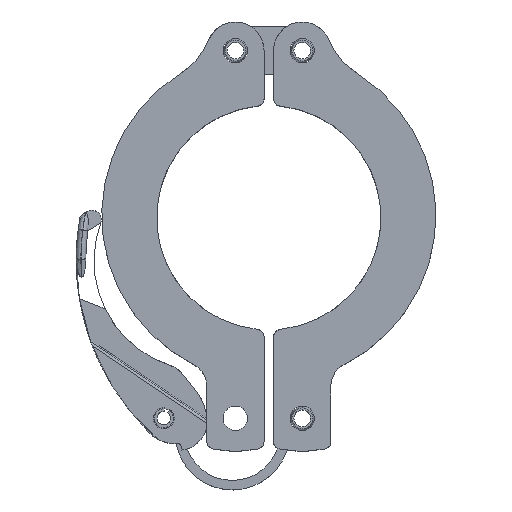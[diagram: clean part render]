
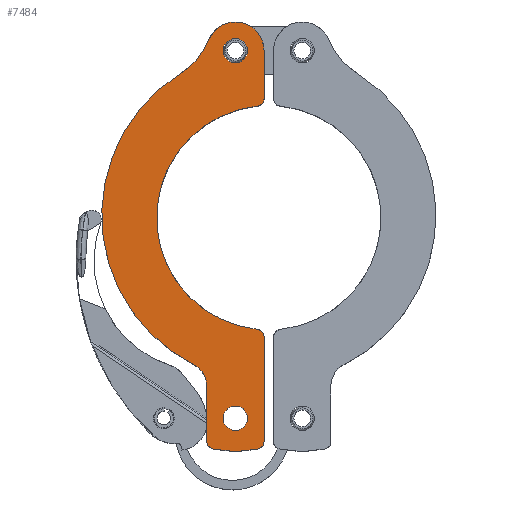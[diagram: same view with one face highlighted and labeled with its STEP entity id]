
A CAD part, top view. The second image highlights one B-rep face of the part: STEP entity #7484.
In plain terms, the highlighted planar face has unit normal (0, 0, 1).
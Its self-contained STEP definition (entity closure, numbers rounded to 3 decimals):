
#696=CARTESIAN_POINT('',(-9.55,35.0,9.0));
#697=VERTEX_POINT('',#696);
#706=CARTESIAN_POINT('',(-4.45,35.0,9.0));
#707=VERTEX_POINT('',#706);
#708=CARTESIAN_POINT('',(-7.,35.0,9.0));
#709=DIRECTION('',(0.0,0.0,-1.0));
#710=DIRECTION('',(-1.0,0.0,0.0));
#711=AXIS2_PLACEMENT_3D('',#708,#709,#710);
#712=CIRCLE('',#711,2.55);
#713=EDGE_CURVE('',#707,#697,#712,.T.);
#738=CARTESIAN_POINT('',(-9.55,-42.0,9.0));
#739=VERTEX_POINT('',#738);
#748=CARTESIAN_POINT('',(-4.45,-42.0,9.0));
#749=VERTEX_POINT('',#748);
#750=CARTESIAN_POINT('',(-7.,-42.0,9.0));
#751=DIRECTION('',(0.0,0.0,-1.0));
#752=DIRECTION('',(-1.0,0.0,0.0));
#753=AXIS2_PLACEMENT_3D('',#750,#751,#752);
#754=CIRCLE('',#753,2.55);
#755=EDGE_CURVE('',#749,#739,#754,.T.);
#6389=CARTESIAN_POINT('',(-13.,-35.221,9.0));
#6390=VERTEX_POINT('',#6389);
#6397=CARTESIAN_POINT('',(-15.75,-30.756,9.0));
#6398=VERTEX_POINT('',#6397);
#6399=CARTESIAN_POINT('',(-18.0,-35.221,9.0));
#6400=DIRECTION('',(0.0,0.0,1.0));
#6401=DIRECTION('',(-1.0,0.0,0.0));
#6402=AXIS2_PLACEMENT_3D('',#6399,#6400,#6401);
#6403=CIRCLE('',#6402,5.0);
#6404=EDGE_CURVE('',#6390,#6398,#6403,.T.);
#6438=CARTESIAN_POINT('',(-13.,-46.848,9.0));
#6439=VERTEX_POINT('',#6438);
#6446=CARTESIAN_POINT('',(-13.,-46.848,9.0));
#6447=DIRECTION('',(0.0,1.0,0.0));
#6448=VECTOR('',#6447,11.627);
#6449=LINE('',#6446,#6448);
#6450=EDGE_CURVE('',#6439,#6390,#6449,.T.);
#6470=CARTESIAN_POINT('',(-11.595,-48.436,9.0));
#6471=VERTEX_POINT('',#6470);
#6478=CARTESIAN_POINT('',(-11.4,-46.848,9.0));
#6479=DIRECTION('',(0.0,0.0,-1.0));
#6480=DIRECTION('',(-1.0,0.0,0.0));
#6481=AXIS2_PLACEMENT_3D('',#6478,#6479,#6480);
#6482=CIRCLE('',#6481,1.6);
#6483=EDGE_CURVE('',#6471,#6439,#6482,.T.);
#6495=CARTESIAN_POINT('',(-7.,-49.0,9.0));
#6496=VERTEX_POINT('',#6495);
#6503=CARTESIAN_POINT('',(-7.,-49.0,9.0));
#6504=DIRECTION('',(-0.993,0.122,0.0));
#6505=VECTOR('',#6504,4.629);
#6506=LINE('',#6503,#6505);
#6507=EDGE_CURVE('',#6496,#6471,#6506,.T.);
#6519=CARTESIAN_POINT('',(-2.405,-48.436,9.0));
#6520=VERTEX_POINT('',#6519);
#6527=CARTESIAN_POINT('',(-2.405,-48.436,9.0));
#6528=DIRECTION('',(-0.993,-0.122,0.0));
#6529=VECTOR('',#6528,4.629);
#6530=LINE('',#6527,#6529);
#6531=EDGE_CURVE('',#6520,#6496,#6530,.T.);
#6543=CARTESIAN_POINT('',(-1.,-46.848,9.0));
#6544=VERTEX_POINT('',#6543);
#6551=CARTESIAN_POINT('',(-2.6,-46.848,9.0));
#6552=DIRECTION('',(0.0,0.0,-1.));
#6553=DIRECTION('',(0.122,-0.993,0.0));
#6554=AXIS2_PLACEMENT_3D('',#6551,#6552,#6553);
#6555=CIRCLE('',#6554,1.6);
#6556=EDGE_CURVE('',#6544,#6520,#6555,.T.);
#6739=CARTESIAN_POINT('',(-1.,35.0,9.0));
#6740=VERTEX_POINT('',#6739);
#6747=CARTESIAN_POINT('',(-1.,24.965,9.0));
#6748=VERTEX_POINT('',#6747);
#6749=CARTESIAN_POINT('',(-1.,35.0,9.0));
#6750=DIRECTION('',(0.0,-1.0,0.0));
#6751=VECTOR('',#6750,10.035);
#6752=LINE('',#6749,#6751);
#6753=EDGE_CURVE('',#6740,#6748,#6752,.T.);
#6788=CARTESIAN_POINT('',(-12.555,37.267,9.0));
#6789=VERTEX_POINT('',#6788);
#6796=CARTESIAN_POINT('',(-7.,35.0,9.0));
#6797=DIRECTION('',(0.0,0.0,-1.0));
#6798=DIRECTION('',(1.0,0.0,0.0));
#6799=AXIS2_PLACEMENT_3D('',#6796,#6797,#6798);
#6800=CIRCLE('',#6799,6.);
#6801=EDGE_CURVE('',#6789,#6740,#6800,.T.);
#7026=CARTESIAN_POINT('',(-2.434,-23.374,9.0));
#7027=VERTEX_POINT('',#7026);
#7034=CARTESIAN_POINT('',(-1.,-24.965,9.0));
#7035=VERTEX_POINT('',#7034);
#7036=CARTESIAN_POINT('',(-2.6,-24.965,9.0));
#7037=DIRECTION('',(0.0,0.0,-1.0));
#7038=DIRECTION('',(1.0,0.0,0.0));
#7039=AXIS2_PLACEMENT_3D('',#7036,#7037,#7038);
#7040=CIRCLE('',#7039,1.6);
#7041=EDGE_CURVE('',#7027,#7035,#7040,.T.);
#7085=CARTESIAN_POINT('',(-2.434,23.374,9.0));
#7086=VERTEX_POINT('',#7085);
#7093=CARTESIAN_POINT('',(0.0,0.0,9.0));
#7094=DIRECTION('',(0.0,0.0,1.0));
#7095=DIRECTION('',(0.104,-0.995,0.0));
#7096=AXIS2_PLACEMENT_3D('',#7093,#7094,#7095);
#7097=CIRCLE('',#7096,23.5);
#7098=EDGE_CURVE('',#7086,#7027,#7097,.T.);
#7129=CARTESIAN_POINT('',(-2.6,24.965,9.0));
#7130=DIRECTION('',(0.0,0.0,-1.));
#7131=DIRECTION('',(0.104,-0.995,0.0));
#7132=AXIS2_PLACEMENT_3D('',#7129,#7130,#7131);
#7133=CIRCLE('',#7132,1.6);
#7134=EDGE_CURVE('',#6748,#7086,#7133,.T.);
#7148=CARTESIAN_POINT('',(-7.,-42.0,9.0));
#7149=DIRECTION('',(0.0,0.0,-1.0));
#7150=DIRECTION('',(-1.0,0.0,0.0));
#7151=AXIS2_PLACEMENT_3D('',#7148,#7149,#7150);
#7152=CIRCLE('',#7151,2.55);
#7153=EDGE_CURVE('',#739,#749,#7152,.T.);
#7166=CARTESIAN_POINT('',(-7.,35.0,9.0));
#7167=DIRECTION('',(0.0,0.0,-1.0));
#7168=DIRECTION('',(-1.0,0.0,0.0));
#7169=AXIS2_PLACEMENT_3D('',#7166,#7167,#7168);
#7170=CIRCLE('',#7169,2.55);
#7171=EDGE_CURVE('',#697,#707,#7170,.T.);
#7290=CARTESIAN_POINT('',(-1.,-24.965,9.0));
#7291=DIRECTION('',(0.0,-1.0,0.0));
#7292=VECTOR('',#7291,21.883);
#7293=LINE('',#7290,#7292);
#7294=EDGE_CURVE('',#7035,#6544,#7293,.T.);
#7395=CARTESIAN_POINT('',(-18.51,30.205,9.0));
#7396=VERTEX_POINT('',#7395);
#7397=CARTESIAN_POINT('',(0.0,0.5,9.0));
#7398=DIRECTION('',(0.0,0.0,-1.0));
#7399=DIRECTION('',(-0.529,0.849,0.0));
#7400=AXIS2_PLACEMENT_3D('',#7397,#7398,#7399);
#7401=CIRCLE('',#7400,35.0);
#7402=EDGE_CURVE('',#6398,#7396,#7401,.T.);
#7429=CARTESIAN_POINT('',(-26.443,42.935,9.0));
#7430=DIRECTION('',(0.0,0.0,1.));
#7431=DIRECTION('',(-0.529,0.849,0.0));
#7432=AXIS2_PLACEMENT_3D('',#7429,#7430,#7431);
#7433=CIRCLE('',#7432,15.);
#7434=EDGE_CURVE('',#7396,#6789,#7433,.T.);
#7455=CARTESIAN_POINT('',(-15.489,-3.864,9.0));
#7456=DIRECTION('',(0.0,0.0,1.0));
#7457=DIRECTION('',(1.0,0.0,0.0));
#7458=AXIS2_PLACEMENT_3D('',#7455,#7456,#7457);
#7459=PLANE('',#7458);
#7460=ORIENTED_EDGE('',*,*,#6753,.F.);
#7461=ORIENTED_EDGE('',*,*,#6801,.F.);
#7462=ORIENTED_EDGE('',*,*,#7434,.F.);
#7463=ORIENTED_EDGE('',*,*,#7402,.F.);
#7464=ORIENTED_EDGE('',*,*,#6404,.F.);
#7465=ORIENTED_EDGE('',*,*,#6450,.F.);
#7466=ORIENTED_EDGE('',*,*,#6483,.F.);
#7467=ORIENTED_EDGE('',*,*,#6507,.F.);
#7468=ORIENTED_EDGE('',*,*,#6531,.F.);
#7469=ORIENTED_EDGE('',*,*,#6556,.F.);
#7470=ORIENTED_EDGE('',*,*,#7294,.F.);
#7471=ORIENTED_EDGE('',*,*,#7041,.F.);
#7472=ORIENTED_EDGE('',*,*,#7098,.F.);
#7473=ORIENTED_EDGE('',*,*,#7134,.F.);
#7474=EDGE_LOOP('',(#7460,#7461,#7462,#7463,#7464,#7465,#7466,#7467,#7468,#7469,#7470,#7471,#7472,#7473));
#7475=FACE_OUTER_BOUND('',#7474,.T.);
#7476=ORIENTED_EDGE('',*,*,#755,.T.);
#7477=ORIENTED_EDGE('',*,*,#7153,.T.);
#7478=EDGE_LOOP('',(#7476,#7477));
#7479=FACE_BOUND('',#7478,.T.);
#7480=ORIENTED_EDGE('',*,*,#713,.T.);
#7481=ORIENTED_EDGE('',*,*,#7171,.T.);
#7482=EDGE_LOOP('',(#7480,#7481));
#7483=FACE_BOUND('',#7482,.T.);
#7484=ADVANCED_FACE('',(#7475,#7479,#7483),#7459,.T.);
